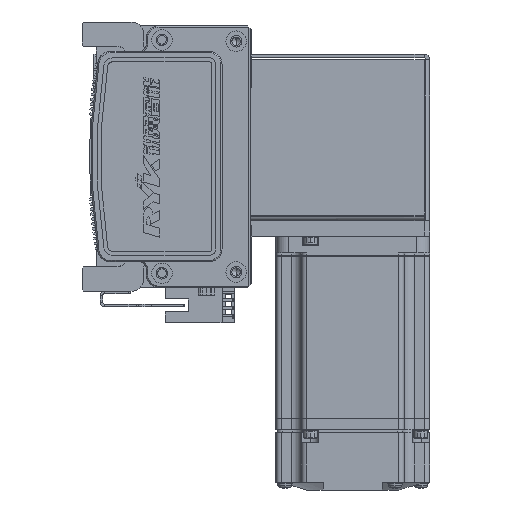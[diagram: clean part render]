
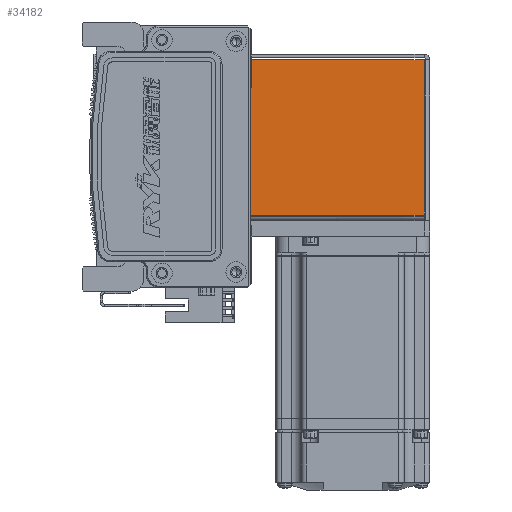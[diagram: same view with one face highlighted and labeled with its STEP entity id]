
A CAD part, left-side view. The second image highlights one B-rep face of the part: STEP entity #34182.
In plain terms, the highlighted planar face has unit normal (-1, 0, 0) as drawn and (0, 0, -1) by its records, which use the part's own axes.
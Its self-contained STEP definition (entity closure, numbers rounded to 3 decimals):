
#854 = ORIENTED_EDGE ( 'NONE', *, *, #59711, .T. ) ;
#7162 = LINE ( 'NONE', #63208, #26778 ) ;
#12610 = EDGE_CURVE ( 'NONE', #14728, #26868, #15629, .T. ) ;
#13820 = CARTESIAN_POINT ( 'NONE',  ( 0., 0., -35. ) ) ;
#14728 = VERTEX_POINT ( 'NONE', #45626 ) ;
#14812 = VECTOR ( 'NONE', #40004, 1000. ) ;
#15629 = LINE ( 'NONE', #17843, #62898 ) ;
#17616 = DIRECTION ( 'NONE',  ( 0., -1., 0. ) ) ;
#17843 = CARTESIAN_POINT ( 'NONE',  ( 30.263, 72.5, -35. ) ) ;
#18055 = DIRECTION ( 'NONE',  ( 0., 0., 1. ) ) ;
#18488 = CARTESIAN_POINT ( 'NONE',  ( 0., 72.5, -35. ) ) ;
#19370 = LINE ( 'NONE', #34517, #48965 ) ;
#26778 = VECTOR ( 'NONE', #30887, 1000. ) ;
#26868 = VERTEX_POINT ( 'NONE', #51316 ) ;
#30887 = DIRECTION ( 'NONE',  ( 0., 1., 0. ) ) ;
#33387 = VERTEX_POINT ( 'NONE', #52094 ) ;
#34182 = ADVANCED_FACE ( 'NONE', ( #54052 ), #46221, .F. ) ;
#34517 = CARTESIAN_POINT ( 'NONE',  ( 32.5, 0.737, -35. ) ) ;
#39484 = DIRECTION ( 'NONE',  ( 1., 0., 0. ) ) ;
#40004 = DIRECTION ( 'NONE',  ( 1., 0., 0. ) ) ;
#41979 = EDGE_CURVE ( 'NONE', #33387, #26868, #19370, .T. ) ;
#44126 = AXIS2_PLACEMENT_3D ( 'NONE', #13820, #18055, #55928 ) ;
#45626 = CARTESIAN_POINT ( 'NONE',  ( 30.263, 72.5, -35. ) ) ;
#46221 = PLANE ( 'NONE',  #44126 ) ;
#46315 = EDGE_LOOP ( 'NONE', ( #49903, #57494, #854, #54974 ) ) ;
#48965 = VECTOR ( 'NONE', #39484, 1000. ) ;
#49865 = VERTEX_POINT ( 'NONE', #56664 ) ;
#49903 = ORIENTED_EDGE ( 'NONE', *, *, #12610, .T. ) ;
#51316 = CARTESIAN_POINT ( 'NONE',  ( 30.263, 0.737, -35. ) ) ;
#52094 = CARTESIAN_POINT ( 'NONE',  ( -30.293, 0.737, -35. ) ) ;
#54052 = FACE_OUTER_BOUND ( 'NONE', #46315, .T. ) ;
#54974 = ORIENTED_EDGE ( 'NONE', *, *, #60553, .T. ) ;
#55928 = DIRECTION ( 'NONE',  ( 0., -1., 0. ) ) ;
#56664 = CARTESIAN_POINT ( 'NONE',  ( -30.293, 72.5, -35. ) ) ;
#57494 = ORIENTED_EDGE ( 'NONE', *, *, #41979, .F. ) ;
#59711 = EDGE_CURVE ( 'NONE', #33387, #49865, #7162, .T. ) ;
#60405 = LINE ( 'NONE', #18488, #14812 ) ;
#60553 = EDGE_CURVE ( 'NONE', #49865, #14728, #60405, .T. ) ;
#62898 = VECTOR ( 'NONE', #17616, 1000. ) ;
#63208 = CARTESIAN_POINT ( 'NONE',  ( -30.293, 0., -35. ) ) ;
